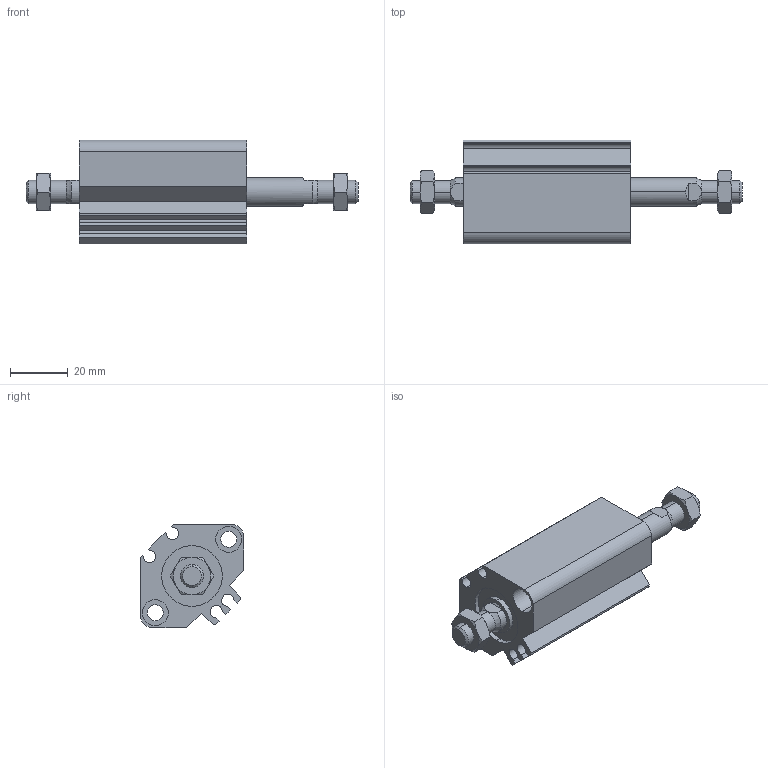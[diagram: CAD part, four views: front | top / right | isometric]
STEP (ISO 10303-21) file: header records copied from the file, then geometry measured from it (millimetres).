
FILE_DESCRIPTION (( 'STEP AP203' ), '1' );
FILE_NAME ('CCMB20-20M-P.STEP', '2020-08-10T11:21:01', ( '' ), ( '' ), 'SwSTEP 2.0', 'SolidWorks 2019', '' );
FILE_SCHEMA (( 'CONFIG_CONTROL_DESIGN' ));
Length unit declared in the file: millimetre
Products named in the file (1): CCMB20-20M-P
Bounding box: 115 x 36 x 36 mm (x, y, z)
Volume: 55710 mm3; surface area: 23558.7 mm2
Topology: 4 solids, 4 shells, 166 faces, 384 edges, 240 vertices
Faces by surface type: plane 66, cylinder 56, cone 44
Entity records: 5367 total; most frequent: CARTESIAN_POINT 1507, DIRECTION 806, ORIENTED_EDGE 768, EDGE_CURVE 384, AXIS2_PLACEMENT_3D 319, VERTEX_POINT 240, EDGE_LOOP 190, LINE 168
